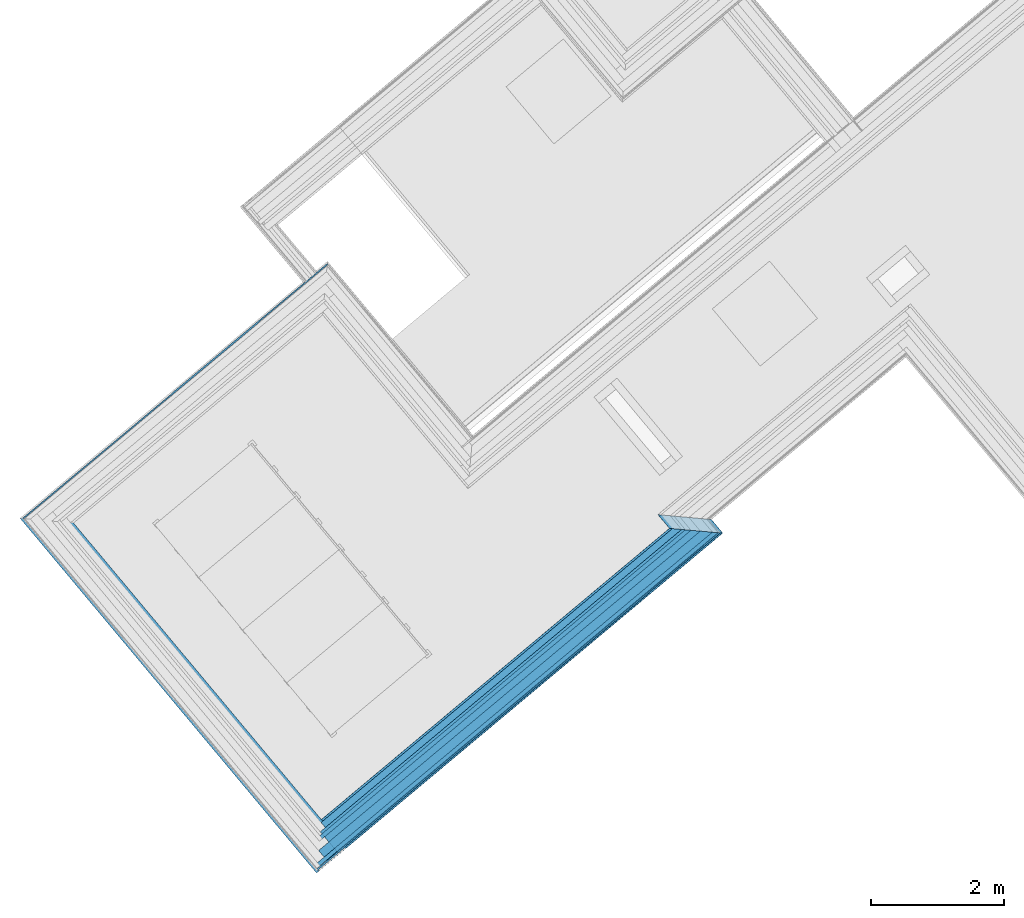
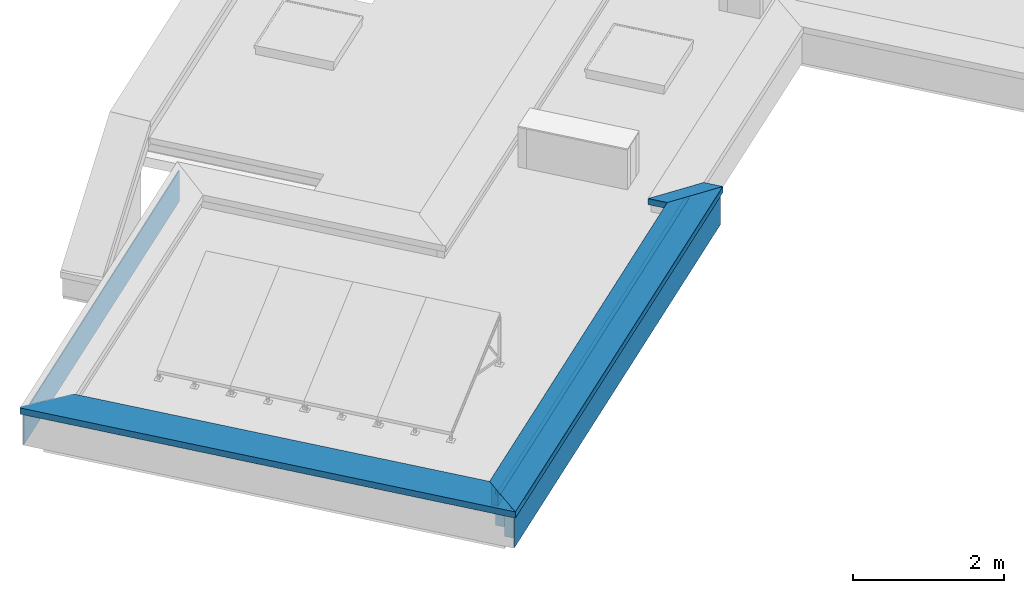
# One storey, part 2 of 15: 13 building element parts, 4 elements without a shape of their own.
"""IFC4 building model written with IfcOpenShell, lengths in metres."""

from ifc_helpers import new_model, entity, si_unit, converted_unit, derived_unit, direction, frame, origin_with_axes, place, context, subcontext, project, spatial, polygons, material, type_object, element, aggregate, save


model = new_model("IFC4")

# Units and contexts
model_context = context("Model", 3, precision=1e-05, world=origin_with_axes(), true_north=direction((0.0, 1.0)))
body_context = subcontext(model_context, "Body", "Model", "MODEL_VIEW")
ifc_project = project(units=[si_unit("LENGTHUNIT", "METRE"), si_unit("AREAUNIT", "SQUARE_METRE"), si_unit("VOLUMEUNIT", "CUBIC_METRE"), converted_unit("PLANEANGLEUNIT", "DEGREE", entity("IfcPlaneAngleMeasure", 0.0174532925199), si_unit("PLANEANGLEUNIT", "RADIAN"), dimensions=[0, 0, 0, 0, 0, 0, 0]), converted_unit("TIMEUNIT", "Year", entity("IfcTimeMeasure", 31556926.0), si_unit("TIMEUNIT", "SECOND"), dimensions=[0, 0, 1, 0, 0, 0, 0]), si_unit("MASSUNIT", "GRAM", prefix="KILO"), si_unit("THERMODYNAMICTEMPERATUREUNIT", "DEGREE_CELSIUS"), si_unit("LUMINOUSINTENSITYUNIT", "LUMEN"), si_unit("ENERGYUNIT", "JOULE", prefix="MEGA"), derived_unit("THERMALCONDUCTANCEUNIT", [(si_unit("POWERUNIT", "WATT"), 1), (si_unit("LENGTHUNIT", "METRE"), -1), (si_unit("THERMODYNAMICTEMPERATUREUNIT", "KELVIN"), -1)]), derived_unit("SPECIFICHEATCAPACITYUNIT", [(si_unit("ENERGYUNIT", "JOULE"), 1), (si_unit("MASSUNIT", "GRAM", prefix="KILO"), -1), (si_unit("THERMODYNAMICTEMPERATUREUNIT", "KELVIN"), -1)]), derived_unit("MASSDENSITYUNIT", [(si_unit("MASSUNIT", "GRAM", prefix="KILO"), 1), (si_unit("VOLUMEUNIT", "CUBIC_METRE"), -1)])], contexts=[model_context])

# Site, building, storey
site_placement = place(None, frame((-0.00153261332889, -0.00661245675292, 0.0), z_axis=(0.0, 0.0, 1.0), x_axis=(1.0, 0.0, 0.0)))
site = spatial("IfcSite", under=ifc_project, at=site_placement, Name="Site", CompositionType="ELEMENT")
building_placement = place(site_placement, origin_with_axes())
building = spatial("IfcBuilding", under=site, at=building_placement, Name="Building", CompositionType="ELEMENT")
storey_placement = place(building_placement, frame((0.0, 0.0, 11.84), z_axis=(0.0, 0.0, 1.0), x_axis=(1.0, 0.0, 0.0)))
storey = spatial("IfcBuildingStorey", under=building, at=storey_placement, Name="DA", CompositionType="ELEMENT", Elevation=11.84)

# Wall, building element part
wall_type = type_object("IfcWallType", Name="Individuelles Profil 574 x 610", PredefinedType="NOTDEFINED")
wall_1_placement = place(storey_placement, frame((-7.43474309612, 17.8596956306, 0.0), z_axis=(0.0, 0.0, 1.0), x_axis=(0.767365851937, 0.641209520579, 0.0)))
wall_1 = element("IfcWall", 1, at=wall_1_placement, inside=storey, type_object=wall_type, Name="Wand-004", PredefinedType="NOTDEFINED")
ifc_material_1 = material(Name="Zementputz")
building_element_part_1_placement = place(wall_1_placement, origin_with_axes())
building_element_part_1 = element("IfcBuildingElementPart", 2, at=building_element_part_1_placement, material=ifc_material_1, Name="Zementputz", PredefinedType="NOTDEFINED", context=body_context, shape_type="Tessellation", body=[
    polygons([(-0.199999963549, 0.214999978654, 0.5), (-0.199999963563, 0.199999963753, 0.5), (5.77520571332, 0.199999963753, 0.50000001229), (5.77520571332, 0.214999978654, 0.50000001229), (-0.199999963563, 0.199999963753, 0.498822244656), (-0.199999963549, 0.214999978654, 0.498822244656), (-0.199999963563, 0.199999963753, 0.491006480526), (-0.199999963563, 0.199999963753, 0.488695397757), (-0.199999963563, 0.199999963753, 0.235000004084), (-0.199999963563, 0.199999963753, 0.0), (5.77520571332, 0.199999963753, 0.0), (5.77520571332, 0.214999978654, 0.0), (-0.199999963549, 0.214999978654, 0.0), (-0.199999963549, 0.214999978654, 0.235000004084), (-0.199999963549, 0.214999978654, 0.488695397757), (-0.199999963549, 0.214999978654, 0.491006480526)], [[[1, 2, 3, 4]], [[5, 2, 1, 6]], [[2, 5, 7, 8, 9, 10, 11, 3]], [[4, 3, 11, 12]], [[6, 1, 4, 12, 13, 14, 15, 16]], [[5, 6, 16, 7]], [[7, 16, 15, 8]], [[8, 15, 14, 9]], [[9, 14, 13, 10]], [[10, 13, 12, 11]]], closed=True),
])
aggregate(wall_1, [building_element_part_1])

wall_2_placement = place(storey_placement, frame((-3.27188579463, 12.8778068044, 0.0), z_axis=(0.0, 0.0, 1.0), x_axis=(-0.641209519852, 0.767365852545, 0.0)))
wall_2 = element("IfcWall", 3, at=wall_2_placement, inside=storey, type_object=wall_type, Name="Wand-004", PredefinedType="NOTDEFINED")
ifc_material_2 = material(Name="Stahl")
building_element_part_2_placement = place(wall_2_placement, origin_with_axes())
building_element_part_2 = element("IfcBuildingElementPart", 4, at=building_element_part_2_placement, material=ifc_material_2, Name="Stahl", PredefinedType="NOTDEFINED", context=body_context, shape_type="Tessellation", body=[
    polygons([(6.733695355, 0.240146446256, 0.51136132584), (6.73234154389, 0.240146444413, 0.51136132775), (6.73234154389, 0.238231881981, 0.51136132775), (6.73369535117, 0.238231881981, 0.51136132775), (6.733695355, 0.240152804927, 0.608602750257), (6.73234790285, 0.240152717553, 0.608602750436), (-0.240309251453, 0.240152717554, 0.608602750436), (-0.241656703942, 0.240152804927, 0.608602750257), (-0.241656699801, 0.240146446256, 0.51136132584), (-0.240302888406, 0.240146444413, 0.51136132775), (6.72447882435, 0.232283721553, 0.51922405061), (6.72548307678, 0.231373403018, 0.518219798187), (6.7327380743, 0.240542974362, 0.509050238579), (6.733695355, 0.239585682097, 0.510007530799), (-0.23343870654, 0.231373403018, 0.518219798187), (-0.24030164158, 0.238231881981, 0.51136132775), (-0.241655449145, 0.238231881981, 0.51136132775), (-0.241656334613, 0.239585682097, 0.510007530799), (-0.240699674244, 0.240542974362, 0.509050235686), (6.73369535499, 0.241500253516, 0.510007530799), (6.73369535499, 0.241500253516, 0.610006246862), (6.7336953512, 0.202730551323, 0.608602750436), (6.73234790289, 0.202730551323, 0.608602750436), (6.7315998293, 0.23927649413, 0.608570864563), (6.73155586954, 0.239360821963, 0.608573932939), (6.7314715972, 0.239276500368, 0.608570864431), (-0.239432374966, 0.239276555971, 0.608570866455), (-0.239516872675, 0.239360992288, 0.608573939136), (-0.240284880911, 0.202730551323, 0.608602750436), (-0.241632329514, 0.202730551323, 0.608602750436), (-0.241657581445, 0.241500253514, 0.510007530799), (-0.241657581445, 0.241500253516, 0.610006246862), (-0.232435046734, 0.232283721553, 0.51922405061), (-0.239408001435, 0.201849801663, 0.608570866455), (0.294846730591, -0.332051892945, 0.58924311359), (6.19756467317, -0.332051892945, 0.58924311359), (6.73147159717, 0.201849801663, 0.608570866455), (6.16149701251, -0.330698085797, 0.587937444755), (0.330913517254, -0.330698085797, 0.587937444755), (0.330914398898, -0.332051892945, 0.587937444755), (0.330914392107, -0.332051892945, 0.586106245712), (0.330914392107, -0.332051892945, 0.584015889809), (0.330914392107, -0.332051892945, 0.575979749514), (0.330914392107, -0.332051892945, 0.573880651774), (0.330914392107, -0.332051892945, 0.567947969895), (0.330914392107, -0.332051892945, 0.55999999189), (0.330914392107, -0.332051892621, 0.519224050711), (0.330914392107, -0.332051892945, 0.51136132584), (0.330914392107, -0.332051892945, 0.509050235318), (0.330914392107, -0.332051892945, 0.499999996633), (0.330914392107, -0.332051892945, 0.498822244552), (0.330914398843, -0.332051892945, 0.491006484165), (0.328999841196, -0.332051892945, 0.491006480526), (0.330353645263, -0.332051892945, 0.489652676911), (6.16205776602, -0.332051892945, 0.489652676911), (6.1634115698, -0.332051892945, 0.491006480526), (6.16149701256, -0.332051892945, 0.491006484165), (6.1614970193, -0.332051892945, 0.498822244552), (6.1614970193, -0.332051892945, 0.499999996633), (6.1614970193, -0.332051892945, 0.509050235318), (6.1614970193, -0.332051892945, 0.51136132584), (6.1614970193, -0.332051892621, 0.519224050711), (6.1614970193, -0.332051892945, 0.55999999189), (6.1614970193, -0.332051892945, 0.567947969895), (6.1614970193, -0.332051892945, 0.573880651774), (6.1614970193, -0.332051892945, 0.575979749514), (6.1614970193, -0.332051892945, 0.584015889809), (6.1614970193, -0.332051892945, 0.586106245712), (6.16149701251, -0.332051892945, 0.587937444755), (6.1614970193, -0.330698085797, 0.498822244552), (6.16149701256, -0.330698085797, 0.491006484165), (0.330913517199, -0.330698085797, 0.491006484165), (0.330913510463, -0.330698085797, 0.498822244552), (0.330913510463, -0.330698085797, 0.499999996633), (0.330913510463, -0.330698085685, 0.509050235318), (0.330913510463, -0.330698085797, 0.51136132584), (0.330913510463, -0.330698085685, 0.519224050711), (0.330913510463, -0.330698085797, 0.55999999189), (0.330913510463, -0.330698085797, 0.567947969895), (0.330913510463, -0.330698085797, 0.573880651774), (0.330913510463, -0.330698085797, 0.575979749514), (0.330913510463, -0.330698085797, 0.584015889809), (0.330913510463, -0.330698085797, 0.586106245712), (6.1614970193, -0.330698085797, 0.586106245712), (6.1614970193, -0.330698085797, 0.584015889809), (6.1614970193, -0.330698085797, 0.575979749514), (6.1614970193, -0.330698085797, 0.573880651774), (6.1614970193, -0.330698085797, 0.567947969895), (6.1614970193, -0.330698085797, 0.55999999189), (6.1614970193, -0.330698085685, 0.519224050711), (6.1614970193, -0.330698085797, 0.51136132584), (6.1614970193, -0.330698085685, 0.509050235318), (6.1614970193, -0.330698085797, 0.499999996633), (0.328998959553, -0.330698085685, 0.491006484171), (0.328997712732, -0.328783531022, 0.491006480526), (0.33131029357, -0.331094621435, 0.4886954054), (6.16110049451, -0.331094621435, 0.4886954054), (6.1634115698, -0.328783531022, 0.491006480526), (6.1634115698, -0.330698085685, 0.491006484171), (6.16931277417, -0.32288233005, 0.498822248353), (0.32309266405, -0.32288233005, 0.498822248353), (0.322089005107, -0.323792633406, 0.497911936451), (6.17031702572, -0.323792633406, 0.497911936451), (0.322087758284, -0.321878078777, 0.497911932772), (6.17031702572, -0.321878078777, 0.497911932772)], [[[1, 2, 3, 4]], [[5, 6, 7, 8, 9, 10, 2, 1]], [[11, 12, 3, 2]], [[13, 14, 4, 3, 12, 15, 16, 17, 18, 19]], [[14, 20, 21, 22, 5, 1, 4]], [[6, 5, 22, 23]], [[24, 25, 26, 27, 28, 7, 6]], [[8, 7, 29, 30]], [[31, 18, 17, 9, 8, 30, 32]], [[10, 9, 17, 16]], [[11, 2, 10, 33]], [[12, 11, 33, 15]], [[13, 20, 14]], [[10, 16, 15, 33]], [[31, 19, 18]], [[20, 13, 19, 31]], [[21, 20, 31, 32]], [[23, 22, 21, 32, 30, 29, 34, 35, 36, 37]], [[26, 24, 6, 23, 37]], [[25, 24, 26]], [[27, 26, 38, 39]], [[28, 27, 34, 29, 7]], [[34, 27, 39, 40, 35]], [[36, 35, 40, 41, 42, 43, 44, 45, 46, 47, 48, 49, 50, 51, 52, 53, 54, 55, 56, 57, 58, 59, 60, 61, 62, 63, 64, 65, 66, 67, 68, 69]], [[26, 37, 36, 69, 38]], [[70, 71, 72, 73, 74, 75, 76, 77, 78, 79, 80, 81, 82, 83, 39, 38, 84, 85, 86, 87, 88, 89, 90, 91, 92, 93]], [[39, 83, 41, 40]], [[83, 82, 42, 41]], [[82, 81, 43, 42]], [[81, 80, 44, 43]], [[80, 79, 45, 44]], [[79, 78, 46, 45]], [[78, 77, 47, 46]], [[77, 76, 48, 47]], [[76, 75, 49, 48]], [[75, 74, 50, 49]], [[74, 73, 51, 50]], [[73, 72, 52, 51]], [[72, 94, 53, 52]], [[95, 96, 54, 53, 94]], [[97, 55, 54, 96]], [[98, 99, 56, 55, 97]], [[99, 71, 57, 56]], [[71, 70, 58, 57]], [[70, 93, 59, 58]], [[93, 92, 60, 59]], [[92, 91, 61, 60]], [[61, 91, 90, 62]], [[89, 63, 62, 90]], [[89, 88, 64, 63]], [[88, 87, 65, 64]], [[87, 86, 66, 65]], [[86, 85, 67, 66]], [[85, 84, 68, 67]], [[84, 38, 69, 68]], [[100, 101, 102, 94, 72, 71, 99, 103]], [[104, 105, 98, 97, 96, 95]], [[104, 95, 94, 102]], [[99, 98, 105, 103]], [[105, 104, 101, 100]], [[101, 104, 102]], [[105, 100, 103]]], closed=True),
])
aggregate(wall_2, [building_element_part_2])

# Wall, building element parts
wall_3_placement = place(storey_placement, frame((2.48571839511, 17.6952214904, 0.0), z_axis=(0.0, 0.0, 1.0), x_axis=(-0.766948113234, -0.641709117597, 0.0)))
wall_3 = element("IfcWall", 5, at=wall_3_placement, inside=storey, type_object=wall_type, Name="Wand-004", PredefinedType="NOTDEFINED")
building_element_part_3_placement = place(wall_3_placement, origin_with_axes())
building_element_part_3 = element("IfcBuildingElementPart", 6, at=building_element_part_3_placement, material=ifc_material_1, Name="Zementputz", PredefinedType="NOTDEFINED", context=body_context, shape_type="Tessellation", body=[
    polygons([(7.70729285, 0.199999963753, 0.5), (7.7073026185, 0.214999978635, 0.5), (-0.214695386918, 0.214999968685, 0.50000001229), (-0.199716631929, 0.199999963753, 0.50000001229), (7.7073026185, 0.214999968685, 0.498822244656), (7.70729285, 0.199999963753, 0.498822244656), (7.7073026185, 0.214999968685, 0.491006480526), (7.7073026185, 0.214999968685, 0.488695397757), (7.7073026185, 0.214999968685, 0.235000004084), (7.7073026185, 0.214999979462, 0.0), (-0.214695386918, 0.214999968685, 0.0), (-0.199716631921, 0.199999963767, 0.0), (7.70729285, 0.199999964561, 0.0), (7.70729285, 0.199999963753, 0.235000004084), (7.70729285, 0.199999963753, 0.488695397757), (7.70729285, 0.199999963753, 0.491006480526)], [[[1, 2, 3, 4]], [[5, 2, 1, 6]], [[2, 5, 7, 8, 9, 10, 11, 3]], [[12, 4, 3, 11]], [[6, 1, 4, 12, 13, 14, 15, 16]], [[5, 6, 16, 7]], [[7, 16, 15, 8]], [[8, 15, 14, 9]], [[9, 14, 13, 10]], [[10, 13, 12, 11]]], closed=True),
])
ifc_material_3 = material(Name="Vollholz")
building_element_part_4_placement = place(wall_3_placement, origin_with_axes())
building_element_part_4 = element("IfcBuildingElementPart", 7, at=building_element_part_4_placement, material=ifc_material_3, Name="Vollholz", PredefinedType="NOTDEFINED", context=body_context, shape_type="Tessellation", body=[
    polygons([(7.63741133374, 0.189996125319, 0.584015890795), (7.69727127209, 0.189984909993, 0.586106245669), (7.63737234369, 0.130124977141, 0.584015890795), (7.63741136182, 0.190039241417, 0.575979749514), (7.63741136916, 0.190050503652, 0.573880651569), (7.63741138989, 0.190082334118, 0.567947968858), (7.63741141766, 0.190124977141, 0.560000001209), (-0.189855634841, 0.190124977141, 0.560000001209), (-0.18971576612, 0.189984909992, 0.586106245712), (-0.129940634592, 0.130124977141, 0.584015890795), (7.63737234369, 0.130124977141, 0.575979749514), (7.63737234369, 0.130124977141, 0.573880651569), (7.63737234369, 0.130124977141, 0.567947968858), (7.63737234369, 0.130124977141, 0.560000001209), (-0.129940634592, 0.130124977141, 0.560000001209)], [[[1, 2, 3]], [[2, 1, 4, 5, 6, 7, 8, 9]], [[3, 2, 9, 10]], [[11, 4, 1, 3]], [[12, 5, 4, 11]], [[5, 12, 13, 6]], [[13, 14, 7, 6]], [[7, 14, 15, 8]], [[15, 10, 9, 8]], [[14, 13, 12, 11, 3, 10, 15]]], closed=True),
])
ifc_material_4 = material(Name="EPS 1")
building_element_part_5_placement = place(wall_3_placement, origin_with_axes())
building_element_part_5 = element("IfcBuildingElementPart", 8, at=building_element_part_5_placement, material=ifc_material_4, Name="EPS 1", PredefinedType="NOTDEFINED", context=body_context, shape_type="Tessellation", body=[
    polygons([(7.50716259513, -2.16659401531e-09, 0.5), (7.50729284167, 0.19999996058, 0.5), (-0.199716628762, 0.19999996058, 0.50000001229), (1.53557877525e-09, -2.16659223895e-09, 0.50000001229), (7.50729284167, 0.199999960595, 0.498822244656), (7.50716259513, -2.16659046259e-09, 0.498822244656), (7.50729284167, 0.199999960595, 0.491006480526), (7.50729284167, 0.199999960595, 0.488695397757), (7.50729284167, 0.199999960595, 0.235000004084), (7.50729284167, 0.199999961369, 0.0), (-0.199716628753, 0.199999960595, 0.0), (1.83745818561e-09, -2.1431141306e-09, 0.0), (7.50716259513, -1.62777169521e-09, 0.0), (7.50716259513, -2.16659046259e-09, 0.235000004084), (7.50716259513, -2.16659046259e-09, 0.488695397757), (7.50716259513, -2.16659046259e-09, 0.491006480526)], [[[1, 2, 3, 4]], [[5, 2, 1, 6]], [[2, 5, 7, 8, 9, 10, 11, 3]], [[12, 4, 3, 11]], [[6, 1, 4, 12, 13, 14, 15, 16]], [[5, 6, 16, 7]], [[7, 16, 15, 8]], [[8, 15, 14, 9]], [[9, 14, 13, 10]], [[10, 13, 12, 11]]], closed=True),
])
ifc_material_5 = material(Name="Brettschichtholz")
building_element_part_6_placement = place(wall_3_placement, origin_with_axes())
building_element_part_6 = element("IfcBuildingElementPart", 9, at=building_element_part_6_placement, material=ifc_material_5, Name="Brettschichtholz", PredefinedType="NOTDEFINED", context=body_context, shape_type="Tessellation", body=[
    polygons([(7.30703230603, -0.200000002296, 0.509050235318), (7.30730256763, 0.214999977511, 0.509050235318), (7.30730256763, 0.214999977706, 0.51136132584), (7.30703230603, -0.200000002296, 0.51136132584), (7.30703230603, -0.200000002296, 0.499999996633), (7.30730256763, 0.21499997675, 0.499999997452), (-0.214695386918, 0.214999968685, 0.50000001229), (-0.214695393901, 0.214999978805, 0.55999999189), (7.30730256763, 0.214999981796, 0.55999999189), (7.30730256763, 0.214999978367, 0.519224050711), (7.30703230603, -0.200000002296, 0.519224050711), (7.30703230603, -0.200000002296, 0.560000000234), (0.19971667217, -0.200000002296, 0.560000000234), (0.199716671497, -0.200000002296, 0.499999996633), (0.0998583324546, -0.0999999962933, 0.560000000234), (-0.129940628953, 0.130124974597, 0.560000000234), (-0.189855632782, 0.190124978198, 0.560000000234), (0.159773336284, -0.159999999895, 0.560000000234), (7.30728636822, 0.190124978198, 0.560000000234), (7.30724729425, 0.130124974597, 0.560000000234), (7.30709742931, -0.0999999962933, 0.560000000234), (7.30705835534, -0.159999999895, 0.560000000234)], [[[1, 2, 3, 4]], [[5, 6, 2, 1]], [[2, 6, 7, 8, 9, 10, 3]], [[4, 3, 10, 11]], [[5, 1, 4, 11, 12, 13, 14]], [[6, 5, 14, 7]], [[15, 16, 17, 8, 7, 14, 13, 18]], [[19, 9, 8, 17]], [[20, 21, 22, 12, 11, 10, 9, 19]], [[12, 22, 18, 13]], [[21, 20, 16, 15]], [[20, 19, 17, 16]], [[22, 21, 15, 18]]], closed=True),
])
ifc_material_6 = material(Name="Stahlbeton Wand Garage")
building_element_part_7_placement = place(wall_3_placement, origin_with_axes())
building_element_part_7 = element("IfcBuildingElementPart", 10, at=building_element_part_7_placement, material=ifc_material_6, Name="Stahlbeton Wand Garage", PredefinedType="NOTDEFINED", context=body_context, shape_type="Tessellation", body=[
    polygons([(7.30703230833, -0.2, 0.5), (7.30716255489, 0.0, 0.5), (-6.27938590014e-10, 0.0, 0.50000001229), (0.19971666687, -0.2, 0.50000001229), (7.30716255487, 0.0, 0.498822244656), (7.30703230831, -0.2, 0.498822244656), (7.30716255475, 0.0, 0.491006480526), (7.30716255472, 0.0, 0.488695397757), (7.30716255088, 0.0, 0.235000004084), (7.30716255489, 5.2508930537e-10, 0.0), (-3.26064508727e-10, 0.0, 0.0), (0.199716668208, -0.200000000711, 0.23500000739), (0.199716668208, -0.200000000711, 0.0), (7.30703230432, -0.200000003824, 0.235000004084), (7.30703230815, -0.2, 0.488695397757), (7.30703230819, -0.2, 0.491006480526), (7.30703230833, -0.199999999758, 0.0)], [[[1, 2, 3, 4]], [[5, 2, 1, 6]], [[2, 5, 7, 8, 9, 10, 11, 3]], [[12, 4, 3, 11, 13]], [[6, 1, 4, 12, 14, 15, 16]], [[5, 6, 16, 7]], [[7, 16, 15, 8]], [[8, 15, 14, 9]], [[9, 14, 17, 10]], [[10, 17, 13, 11]], [[17, 14, 12, 13]]], closed=True),
])
building_element_part_8_placement = place(wall_3_placement, origin_with_axes())
building_element_part_8 = element("IfcBuildingElementPart", 11, at=building_element_part_8_placement, material=ifc_material_3, Name="Vollholz", PredefinedType="NOTDEFINED", context=body_context, shape_type="Tessellation", body=[
    polygons([(7.40709745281, -0.0999999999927, 0.575979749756), (7.34698721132, -0.1, 0.573880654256), (7.34703432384, -0.1, 0.567947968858), (7.34709744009, -0.1, 0.560000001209), (0.0998583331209, -0.1, 0.560000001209), (0.0998583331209, -0.1, 0.575979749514), (7.34694806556, -0.160110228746, 0.573880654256), (7.34699520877, -0.160063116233, 0.567947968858), (7.34705836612, -0.16, 0.560000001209), (0.15977333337, -0.16, 0.560000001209), (0.159883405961, -0.160110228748, 0.573880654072)], [[[1, 2, 3, 4, 5, 6]], [[7, 2, 1]], [[2, 7, 8, 3]], [[3, 8, 9, 4]], [[4, 9, 10, 5]], [[10, 11, 6, 5]], [[7, 1, 6, 11]], [[8, 7, 11, 10, 9]]], closed=True),
])
building_element_part_9_placement = place(wall_3_placement, origin_with_axes())
building_element_part_9 = element("IfcBuildingElementPart", 12, at=building_element_part_9_placement, material=ifc_material_4, Name="EPS 1", PredefinedType="NOTDEFINED", context=body_context, shape_type="Tessellation", body=[
    polygons([(7.206967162, -0.300000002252, 0.235000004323), (7.20703228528, -0.200000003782, 0.235000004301), (7.20703228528, -0.200000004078, 0.488695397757), (7.206967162, -0.300000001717, 0.488695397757), (0.299575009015, -0.30000000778, 0.23500000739), (0.199716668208, -0.200000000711, 0.23500000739), (0.19971667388, -0.200000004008, 0.560000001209), (7.20703228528, -0.200000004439, 0.560000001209), (7.20703228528, -0.200000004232, 0.519224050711), (7.20703228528, -0.200000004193, 0.51136132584), (7.20703228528, -0.200000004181, 0.509050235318), (7.20703228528, -0.200000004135, 0.499999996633), (7.20703228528, -0.200000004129, 0.498822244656), (7.20703228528, -0.200000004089, 0.491006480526), (7.206967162, -0.300000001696, 0.491006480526), (7.206967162, -0.300000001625, 0.498822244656), (7.206967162, -0.300000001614, 0.499999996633), (7.206967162, -0.300000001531, 0.509050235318), (7.206967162, -0.30000000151, 0.51136132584), (7.206967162, -0.300000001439, 0.519224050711), (7.206967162, -0.300000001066, 0.560000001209), (0.299575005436, -0.30000000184, 0.560000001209)], [[[1, 2, 3, 4]], [[2, 1, 5, 6]], [[3, 2, 6, 7, 8, 9, 10, 11, 12, 13, 14]], [[15, 4, 3, 14]], [[4, 15, 16, 17, 18, 19, 20, 21, 22, 5, 1]], [[5, 22, 7, 6]], [[21, 8, 7, 22]], [[20, 9, 8, 21]], [[19, 10, 9, 20]], [[10, 19, 18, 11]], [[17, 12, 11, 18]], [[16, 13, 12, 17]], [[13, 16, 15, 14]]], closed=True),
])
ifc_material_7 = material(Name="Holzwerkstoff")
building_element_part_10_placement = place(wall_3_placement, origin_with_axes())
building_element_part_10 = element("IfcBuildingElementPart", 13, at=building_element_part_10_placement, material=ifc_material_7, Name="Holzwerkstoff", PredefinedType="NOTDEFINED", context=body_context, shape_type="Tessellation", body=[
    polygons([(7.17624908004, -0.330698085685, 0.587937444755), (7.74659497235, 0.239276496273, 0.608570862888), (-0.238937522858, 0.239276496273, 0.608570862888), (0.330229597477, -0.330698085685, 0.587937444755), (7.17662073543, 0.23999703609, 0.587937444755), (7.17662369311, 0.239999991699, 0.587852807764), (-0.239659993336, 0.239999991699, 0.587852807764), (0.15988340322, -0.160110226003, 0.573880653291), (0.329532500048, -0.329999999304, 0.567947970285), (-0.189715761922, 0.189984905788, 0.586106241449), (-0.129940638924, 0.130124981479, 0.584015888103), (0.0998583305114, -0.0999999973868, 0.575979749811), (7.17694765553, -0.329999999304, 0.567947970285), (7.17674030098, -0.330207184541, 0.573880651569), (7.17666694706, -0.33028049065, 0.57597974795), (7.1763861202, -0.330561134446, 0.584015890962), (7.17631307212, -0.330634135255, 0.586106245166), (7.17665211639, 0.189985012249, 0.586106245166), (7.17685107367, -0.160110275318, 0.573880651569), (7.17668613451, 0.13012506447, 0.584015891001), (7.17681691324, -0.10000005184, 0.575979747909)], [[[1, 2, 3, 4]], [[2, 1, 5]], [[2, 5, 6, 7, 3]], [[8, 9, 4, 3, 7, 10, 11, 12]], [[13, 14, 15, 16, 17, 1, 4, 9]], [[1, 17, 18, 6, 5]], [[6, 18, 10, 7]], [[19, 13, 9, 8]], [[18, 20, 11, 10]], [[21, 12, 11, 20]], [[21, 19, 8, 12]], [[13, 19, 14]], [[19, 21, 15, 14]], [[15, 21, 20, 16]], [[16, 20, 18, 17]]], closed=True),
])
building_element_part_11_placement = place(wall_3_placement, origin_with_axes())
building_element_part_11 = element("IfcBuildingElementPart", 14, at=building_element_part_11_placement, material=ifc_material_2, Name="Stahl", PredefinedType="NOTDEFINED", context=body_context, shape_type="Tessellation", body=[
    polygons([(7.74746954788, 0.241500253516, 0.55999999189), (7.7474700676, 0.241500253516, 0.567947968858), (7.74746918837, 0.240150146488, 0.567947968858), (7.7474686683, 0.240149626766, 0.55999999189), (7.74747045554, 0.241500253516, 0.573880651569), (7.74746688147, 0.241500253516, 0.519224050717), (7.74746636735, 0.241500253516, 0.51136132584), (7.7455518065, 0.241500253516, 0.511361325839), (7.74690560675, 0.241500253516, 0.510007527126), (-0.241158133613, 0.241500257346, 0.510007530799), (-0.241158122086, 0.24150025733, 0.610006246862), (7.74882017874, 0.241500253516, 0.610006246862), (7.71005055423, 0.241500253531, 0.608602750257), (7.74747272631, 0.241500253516, 0.608602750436), (7.74747272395, 0.241500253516, 0.608570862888), (7.74747137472, 0.241500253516, 0.587937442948), (7.74747125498, 0.241500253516, 0.586106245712), (7.74747111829, 0.241500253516, 0.584015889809), (7.7474705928, 0.241500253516, 0.575979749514), (7.74746957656, 0.24015053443, 0.573880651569), (7.74555092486, 0.240146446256, 0.511361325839), (7.74746548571, 0.240146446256, 0.51136132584), (7.74746600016, 0.240146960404, 0.519224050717), (7.74746971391, 0.240150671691, 0.575979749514), (7.74747023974, 0.240151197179, 0.584015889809), (7.74747037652, 0.240151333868, 0.586106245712), (7.74747049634, 0.240151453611, 0.587937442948), (7.74747184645, 0.240152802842, 0.608570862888), (7.74747184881, 0.240152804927, 0.608602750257), (7.71004967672, 0.240152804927, 0.608602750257), (-0.239812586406, 0.240152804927, 0.608602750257), (-0.239806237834, 0.240146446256, 0.51136132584), (7.74786118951, 0.240542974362, 0.509050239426), (7.74554967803, 0.238231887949, 0.51136132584), (-0.240202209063, 0.240542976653, 0.509050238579), (0.330229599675, -0.330698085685, 0.491006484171), (0.322424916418, -0.32288233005, 0.498822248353), (0.321422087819, -0.321878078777, 0.497911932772), (0.330625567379, -0.33109461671, 0.488695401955), (0.331581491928, -0.332051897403, 0.489652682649), (0.331581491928, -0.332051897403, 0.589243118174), (-0.231045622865, 0.231373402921, 0.518219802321), (-0.231954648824, 0.232283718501, 0.519224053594), (-0.238937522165, 0.239276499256, 0.608570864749), (0.330229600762, -0.330698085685, 0.587937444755), (7.71002530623, 0.202730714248, 0.608602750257), (7.17489447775, -0.332051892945, 0.58924311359), (7.70914389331, 0.201849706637, 0.608570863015), (7.70925320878, 0.239360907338, 0.608573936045), (7.70916826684, 0.239276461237, 0.608570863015), (7.70925295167, 0.23927646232, 0.608570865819), (7.73868797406, 0.233287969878, 0.518219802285), (7.73959764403, 0.232283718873, 0.51922405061), (7.73868673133, 0.231373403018, 0.518219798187), (7.1762490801, -0.330698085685, 0.491006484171), (7.18406993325, -0.32288233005, 0.498822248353), (7.1748952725, -0.330698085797, 0.491006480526), (7.18316027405, -0.321878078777, 0.497911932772), (7.17489563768, -0.330137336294, 0.489652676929), (7.17585229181, -0.331094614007, 0.488695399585), (7.17625032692, -0.328783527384, 0.491006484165), (7.17489651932, -0.328783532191, 0.491006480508), (7.17489439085, -0.332051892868, 0.489652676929), (7.17489439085, -0.332051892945, 0.491006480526), (7.17489439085, -0.332051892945, 0.498822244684), (7.17489439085, -0.332051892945, 0.499999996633), (7.17489439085, -0.332051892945, 0.509050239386), (7.17489439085, -0.332051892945, 0.51136132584), (7.17489439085, -0.332051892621, 0.519224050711), (7.17489439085, -0.332051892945, 0.55999999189), (7.17489439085, -0.332051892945, 0.567947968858), (7.17489439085, -0.332051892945, 0.573880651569), (7.17489439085, -0.332051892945, 0.575979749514), (7.17489439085, -0.332051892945, 0.584015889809), (7.17489439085, -0.332051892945, 0.586106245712), (7.17489439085, -0.332051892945, 0.587937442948), (7.17491876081, -0.294630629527, 0.589243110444), (7.1748952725, -0.330698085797, 0.587937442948), (7.1748952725, -0.330698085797, 0.498822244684), (7.1748952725, -0.330698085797, 0.586106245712), (7.1748952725, -0.330698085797, 0.584015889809), (7.1748952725, -0.330698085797, 0.575979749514), (7.1748952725, -0.330698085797, 0.573880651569), (7.1748952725, -0.330698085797, 0.567947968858), (7.1748952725, -0.330698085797, 0.55999999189), (7.1748952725, -0.330698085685, 0.519224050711), (7.1748952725, -0.330698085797, 0.51136132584), (7.1748952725, -0.330698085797, 0.509050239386), (7.1748952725, -0.330698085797, 0.499999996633)], [[[1, 2, 3, 4]], [[5, 2, 1, 6, 7, 8, 9, 10, 11, 12, 13, 14, 15, 16, 17, 18, 19]], [[2, 5, 20, 3]], [[21, 22, 23, 4, 3, 20, 24, 25, 26, 27, 28, 29, 30, 31, 32]], [[6, 1, 4, 23]], [[7, 6, 23, 22]], [[7, 22, 21, 8]], [[33, 9, 8, 21, 34]], [[9, 33, 35, 10]], [[36, 37, 38, 39, 40, 41, 11, 10, 35, 42, 43, 32, 31, 44, 45]], [[46, 12, 11, 41, 47, 48]], [[13, 12, 46, 30]], [[29, 14, 13, 30]], [[28, 15, 14, 29]], [[15, 28, 27, 16]], [[17, 16, 27, 26]], [[18, 17, 26, 25]], [[19, 18, 25, 24]], [[5, 19, 24, 20]], [[49, 50, 44, 31, 30, 51]], [[52, 21, 32, 43, 53]], [[34, 21, 52, 54]], [[33, 34, 54, 42, 35]], [[55, 56, 37, 36, 57]], [[56, 58, 38, 37]], [[59, 60, 39, 38, 58, 61, 62]], [[60, 63, 40, 39]], [[63, 64, 65, 66, 67, 68, 69, 70, 71, 72, 73, 74, 75, 76, 47, 41, 40]], [[54, 53, 43, 42]], [[50, 77, 78, 45, 44]], [[79, 57, 36, 45, 78, 80, 81, 82, 83, 84, 85, 86, 87, 88, 89]], [[50, 48, 47, 77]], [[48, 50, 51, 30, 46]], [[50, 49, 51]], [[52, 53, 54]], [[58, 56, 55, 61]], [[55, 57, 62, 61]], [[60, 59, 63]], [[62, 57, 64, 63, 59]], [[57, 79, 65, 64]], [[79, 89, 66, 65]], [[89, 88, 67, 66]], [[88, 87, 68, 67]], [[68, 87, 86, 69]], [[85, 70, 69, 86]], [[85, 84, 71, 70]], [[84, 83, 72, 71]], [[83, 82, 73, 72]], [[82, 81, 74, 73]], [[81, 80, 75, 74]], [[80, 78, 76, 75]], [[76, 78, 77, 47]]], closed=True),
])
aggregate(wall_3, [building_element_part_3, building_element_part_4, building_element_part_5, building_element_part_6, building_element_part_7, building_element_part_8, building_element_part_9, building_element_part_10, building_element_part_11])

wall_4_placement = place(storey_placement, frame((2.48571839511, 17.6952214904, 0.0), z_axis=(0.0, 0.0, 1.0), x_axis=(-0.640621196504, 0.76785707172, 0.0)))
wall_4 = element("IfcWall", 15, at=wall_4_placement, inside=storey, type_object=wall_type, Name="Wand-004", PredefinedType="NOTDEFINED")
building_element_part_12_placement = place(wall_4_placement, origin_with_axes())
building_element_part_12 = element("IfcBuildingElementPart", 16, at=building_element_part_12_placement, material=ifc_material_2, Name="Stahl", PredefinedType="NOTDEFINED", context=body_context, shape_type="Tessellation", body=[
    polygons([(0.330625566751, 0.331094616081, 0.488695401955), (0.600063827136, 0.331094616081, 0.488695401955), (0.590847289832, 0.321878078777, 0.497911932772), (0.321422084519, 0.321878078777, 0.497911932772), (0.3315814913, 0.332051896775, 0.489652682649), (0.60102110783, 0.332051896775, 0.489652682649), (0.60102110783, 0.332051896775, 0.589243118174), (0.0274689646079, -0.241500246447, 0.610006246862), (0.027468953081, -0.241500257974, 0.510007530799), (0.0284262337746, -0.240542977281, 0.509050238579), (0.0375958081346, -0.231373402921, 0.518219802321), (0.0366854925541, -0.232283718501, 0.519224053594), (0.0288227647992, -0.240146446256, 0.51136132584), (0.028816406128, -0.240152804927, 0.608602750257), (0.0296927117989, -0.239276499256, 0.608570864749), (0.599667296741, 0.330698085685, 0.587937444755), (0.599667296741, 0.330698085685, 0.491006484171), (0.591851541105, 0.32288233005, 0.498822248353), (0.322424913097, 0.32288233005, 0.498822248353), (0.330229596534, 0.330698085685, 0.491006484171), (0.330229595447, 0.330698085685, 0.587937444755), (-0.238937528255, -0.239276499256, 0.608570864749), (-0.239812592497, -0.240152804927, 0.608602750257), (-0.239806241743, -0.240146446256, 0.51136132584), (-0.231954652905, -0.232283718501, 0.519224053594), (-0.231045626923, -0.231373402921, 0.518219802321), (-0.240202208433, -0.24054297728, 0.509050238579), (-0.241158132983, -0.241500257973, 0.510007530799), (-0.241158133, -0.241500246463, 0.610006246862), (0.3315814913, 0.332051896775, 0.589243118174)], [[[1, 2, 3, 4]], [[2, 1, 5, 6]], [[3, 2, 6, 7, 8, 9, 10, 11, 12, 13, 14, 15, 16, 17, 18]], [[3, 18, 19, 4]], [[5, 1, 4, 19, 20, 21, 22, 23, 24, 25, 26, 27, 28, 29, 30]], [[5, 30, 7, 6]], [[7, 30, 29, 8]], [[9, 8, 29, 28]], [[27, 10, 9, 28]], [[10, 27, 26, 11]], [[26, 25, 12, 11]], [[12, 25, 24, 13]], [[14, 13, 24, 23]], [[22, 15, 14, 23]], [[21, 16, 15, 22]], [[21, 20, 17, 16]], [[18, 17, 20, 19]]], closed=True),
])
building_element_part_13_placement = place(wall_4_placement, origin_with_axes())
building_element_part_13 = element("IfcBuildingElementPart", 17, at=building_element_part_13_placement, material=ifc_material_7, Name="Holzwerkstoff", PredefinedType="NOTDEFINED", context=body_context, shape_type="Tessellation", body=[
    polygons([(0.0789843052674, -0.189984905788, 0.586106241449), (0.0289692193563, -0.239999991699, 0.587852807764), (-0.23965999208, -0.239999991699, 0.587852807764), (-0.189715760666, -0.189984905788, 0.586106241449), (0.0296927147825, -0.239276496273, 0.608570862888), (0.138844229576, -0.130124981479, 0.584015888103), (0.368969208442, 0.0999999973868, 0.575979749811), (0.429079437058, 0.160110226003, 0.573880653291), (0.59896921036, 0.329999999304, 0.567947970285), (0.599667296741, 0.330698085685, 0.587937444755), (-0.238937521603, -0.239276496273, 0.608570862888), (0.330229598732, 0.330698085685, 0.587937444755), (0.329532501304, 0.329999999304, 0.567947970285), (0.159883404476, 0.160110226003, 0.573880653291), (0.0998583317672, 0.0999999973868, 0.575979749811), (-0.129940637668, -0.130124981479, 0.584015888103)], [[[1, 2, 3, 4]], [[5, 2, 1, 6, 7, 8, 9, 10]], [[2, 5, 11, 3]], [[4, 3, 11, 12, 13, 14, 15, 16]], [[6, 1, 4, 16]], [[7, 6, 16, 15]], [[8, 7, 15, 14]], [[9, 8, 14, 13]], [[10, 9, 13, 12]], [[5, 10, 12, 11]]], closed=True),
])
aggregate(wall_4, [building_element_part_12, building_element_part_13])

save(model, "model.ifc")
